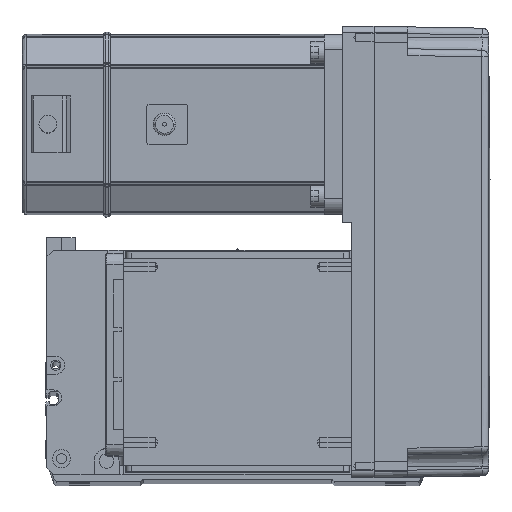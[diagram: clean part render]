
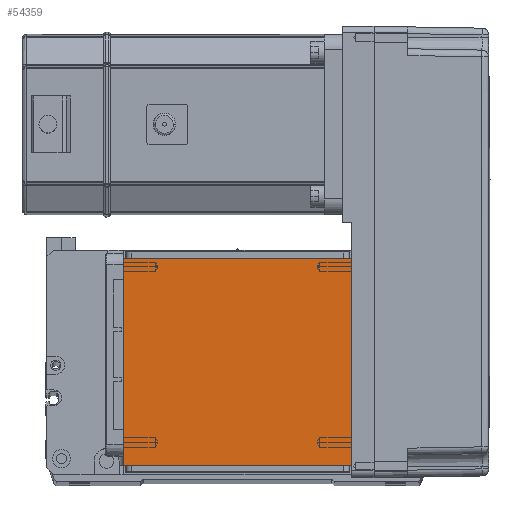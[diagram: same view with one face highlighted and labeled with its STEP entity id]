
A CAD part, top view. The second image highlights one B-rep face of the part: STEP entity #54359.
In plain terms, the highlighted planar face has unit normal (0, 0, 1).
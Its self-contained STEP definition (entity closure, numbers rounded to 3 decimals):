
#595 = VERTEX_POINT ( 'NONE', #8712 ) ;
#1662 = EDGE_CURVE ( 'NONE', #595, #11422, #44603, .T. ) ;
#2060 = VECTOR ( 'NONE', #53269, 1000. ) ;
#3483 = CARTESIAN_POINT ( 'NONE',  ( -70.004, 111.5, 115. ) ) ;
#3879 = DIRECTION ( 'NONE',  ( 1., 0., 0. ) ) ;
#4051 = CARTESIAN_POINT ( 'NONE',  ( -70.004, 20., 115. ) ) ;
#5515 = CARTESIAN_POINT ( 'NONE',  ( 50.5, 122., 115. ) ) ;
#7089 = EDGE_CURVE ( 'NONE', #41850, #11422, #45490, .T. ) ;
#8416 = DIRECTION ( 'NONE',  ( 0., 0., 1. ) ) ;
#8712 = CARTESIAN_POINT ( 'NONE',  ( 50.5, 20., 115. ) ) ;
#9173 = FACE_OUTER_BOUND ( 'NONE', #23517, .T. ) ;
#10063 = DIRECTION ( 'NONE',  ( 0., -1., 0. ) ) ;
#11422 = VERTEX_POINT ( 'NONE', #45323 ) ;
#14294 = LINE ( 'NONE', #5515, #54093 ) ;
#16400 = CARTESIAN_POINT ( 'NONE',  ( -50.5, 111.5, 115. ) ) ;
#18419 = AXIS2_PLACEMENT_3D ( 'NONE', #57685, #8416, #3879 ) ;
#18961 = CARTESIAN_POINT ( 'NONE',  ( -50.5, 122., 115. ) ) ;
#20449 = VECTOR ( 'NONE', #35997, 1000. ) ;
#23446 = ORIENTED_EDGE ( 'NONE', *, *, #28384, .F. ) ;
#23517 = EDGE_LOOP ( 'NONE', ( #23446, #46678, #46206, #34124 ) ) ;
#24130 = CARTESIAN_POINT ( 'NONE',  ( 50.5, 111.5, 115. ) ) ;
#25513 = LINE ( 'NONE', #3483, #2060 ) ;
#28384 = EDGE_CURVE ( 'NONE', #41850, #38848, #25513, .T. ) ;
#28531 = VECTOR ( 'NONE', #10063, 1000. ) ;
#34124 = ORIENTED_EDGE ( 'NONE', *, *, #41097, .T. ) ;
#35997 = DIRECTION ( 'NONE',  ( -1., 0., 0. ) ) ;
#38848 = VERTEX_POINT ( 'NONE', #24130 ) ;
#41097 = EDGE_CURVE ( 'NONE', #595, #38848, #14294, .T. ) ;
#41850 = VERTEX_POINT ( 'NONE', #16400 ) ;
#42568 = DIRECTION ( 'NONE',  ( 0., 1., 0. ) ) ;
#44541 = PLANE ( 'NONE',  #18419 ) ;
#44603 = LINE ( 'NONE', #4051, #20449 ) ;
#45323 = CARTESIAN_POINT ( 'NONE',  ( -50.5, 20., 115. ) ) ;
#45490 = LINE ( 'NONE', #18961, #28531 ) ;
#46206 = ORIENTED_EDGE ( 'NONE', *, *, #1662, .F. ) ;
#46678 = ORIENTED_EDGE ( 'NONE', *, *, #7089, .T. ) ;
#53269 = DIRECTION ( 'NONE',  ( 1., 0., 0. ) ) ;
#54093 = VECTOR ( 'NONE', #42568, 1000. ) ;
#54359 = ADVANCED_FACE ( 'NONE', ( #9173 ), #44541, .T. ) ;
#57685 = CARTESIAN_POINT ( 'NONE',  ( 0., 0., 115. ) ) ;
